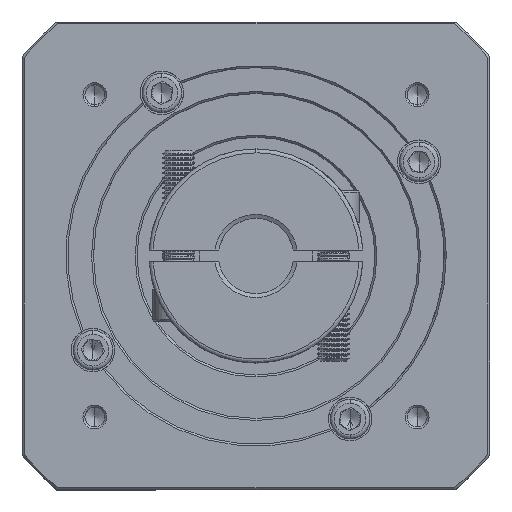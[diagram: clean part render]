
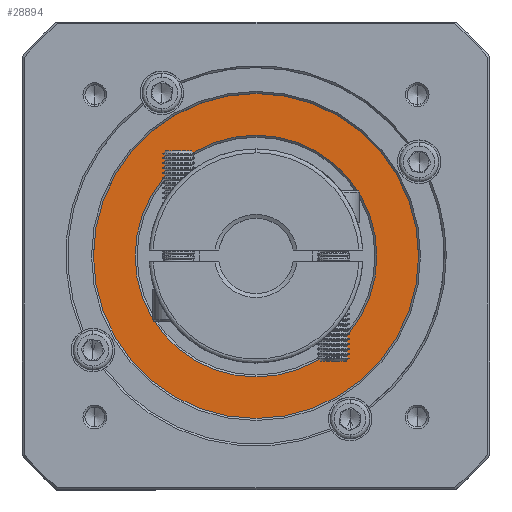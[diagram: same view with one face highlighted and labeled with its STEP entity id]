
A CAD part, top view. The second image highlights one B-rep face of the part: STEP entity #28894.
In plain terms, the highlighted planar face has unit normal (0, 0, 1).
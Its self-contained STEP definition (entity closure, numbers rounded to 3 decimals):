
#1346 = CARTESIAN_POINT ( 'NONE',  ( -144.201, 88.395, 78.269 ) ) ;
#6197 = ORIENTED_EDGE ( 'NONE', *, *, #53958, .T. ) ;
#10577 = DIRECTION ( 'NONE',  ( 0., 1., 0. ) ) ;
#10829 = AXIS2_PLACEMENT_3D ( 'NONE', #78028, #22845, #87283 ) ;
#14322 = CARTESIAN_POINT ( 'NONE',  ( -144.201, 88.395, 78.269 ) ) ;
#18206 = CARTESIAN_POINT ( 'NONE',  ( -144.201, 118.895, 78.269 ) ) ;
#20078 = AXIS2_PLACEMENT_3D ( 'NONE', #53991, #118405, #63220 ) ;
#22455 = PLANE ( 'NONE',  #10829 ) ;
#22845 = DIRECTION ( 'NONE',  ( 0., 0., 1. ) ) ;
#23427 = VERTEX_POINT ( 'NONE', #47895 ) ;
#23625 = DIRECTION ( 'NONE',  ( 0., 1., 0. ) ) ;
#23849 = CIRCLE ( 'NONE', #20078, 41. ) ;
#28174 = AXIS2_PLACEMENT_3D ( 'NONE', #14322, #78805, #23625 ) ;
#28894 = ADVANCED_FACE ( 'NONE', ( #33280, #82358 ), #22455, .T. ) ;
#31057 = EDGE_LOOP ( 'NONE', ( #6197, #80832 ) ) ;
#33280 = FACE_OUTER_BOUND ( 'NONE', #61349, .T. ) ;
#40668 = CIRCLE ( 'NONE', #42705, 30.5 ) ;
#42705 = AXIS2_PLACEMENT_3D ( 'NONE', #1346, #65731, #10577 ) ;
#43864 = DIRECTION ( 'NONE',  ( 0., 0., -1. ) ) ;
#46080 = CIRCLE ( 'NONE', #114866, 30.5 ) ;
#47895 = CARTESIAN_POINT ( 'NONE',  ( -144.201, 47.395, 78.269 ) ) ;
#48144 = VERTEX_POINT ( 'NONE', #114744 ) ;
#51861 = CIRCLE ( 'NONE', #28174, 41. ) ;
#53958 = EDGE_CURVE ( 'NONE', #116544, #104017, #40668, .T. ) ;
#53991 = CARTESIAN_POINT ( 'NONE',  ( -144.201, 88.395, 78.269 ) ) ;
#61349 = EDGE_LOOP ( 'NONE', ( #89763, #97235 ) ) ;
#62652 = EDGE_CURVE ( 'NONE', #104017, #116544, #46080, .T. ) ;
#63220 = DIRECTION ( 'NONE',  ( 0., 1., 0. ) ) ;
#65731 = DIRECTION ( 'NONE',  ( 0., 0., -1. ) ) ;
#66735 = EDGE_CURVE ( 'NONE', #23427, #48144, #51861, .T. ) ;
#77805 = CARTESIAN_POINT ( 'NONE',  ( -144.201, 57.895, 78.269 ) ) ;
#78028 = CARTESIAN_POINT ( 'NONE',  ( -144.201, 88.395, 78.269 ) ) ;
#78805 = DIRECTION ( 'NONE',  ( 0., 0., 1. ) ) ;
#80832 = ORIENTED_EDGE ( 'NONE', *, *, #62652, .T. ) ;
#82358 = FACE_BOUND ( 'NONE', #31057, .T. ) ;
#87283 = DIRECTION ( 'NONE',  ( 0., 1., 0. ) ) ;
#89763 = ORIENTED_EDGE ( 'NONE', *, *, #100579, .T. ) ;
#97235 = ORIENTED_EDGE ( 'NONE', *, *, #66735, .T. ) ;
#99106 = CARTESIAN_POINT ( 'NONE',  ( -144.201, 88.395, 78.269 ) ) ;
#100579 = EDGE_CURVE ( 'NONE', #48144, #23427, #23849, .T. ) ;
#104017 = VERTEX_POINT ( 'NONE', #77805 ) ;
#108350 = DIRECTION ( 'NONE',  ( 0., 1., 0. ) ) ;
#114744 = CARTESIAN_POINT ( 'NONE',  ( -144.201, 129.395, 78.269 ) ) ;
#114866 = AXIS2_PLACEMENT_3D ( 'NONE', #99106, #43864, #108350 ) ;
#116544 = VERTEX_POINT ( 'NONE', #18206 ) ;
#118405 = DIRECTION ( 'NONE',  ( 0., 0., 1. ) ) ;
